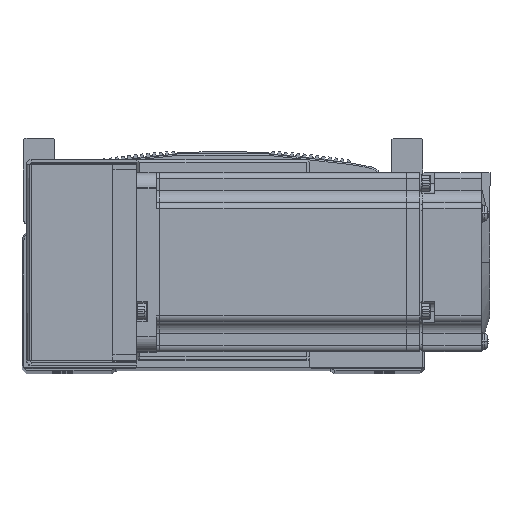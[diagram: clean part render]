
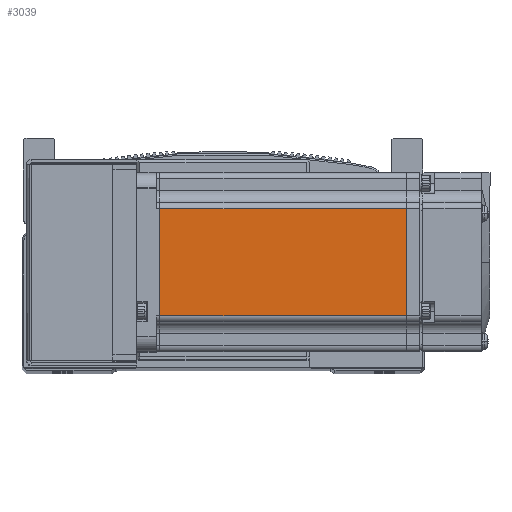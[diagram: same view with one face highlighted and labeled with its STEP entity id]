
A CAD part, top view. The second image highlights one B-rep face of the part: STEP entity #3039.
In plain terms, the highlighted planar face has unit normal (0, 0, 1) as drawn and (0, 0, -1) by its records, which use the part's own axes.
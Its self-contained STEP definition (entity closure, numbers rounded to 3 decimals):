
#3039 = ADVANCED_FACE ( 'NONE', ( #39071 ), #41800, .T. ) ;
#6420 = EDGE_CURVE ( 'NONE', #58538, #58545, #23903, .T. ) ;
#6489 = EDGE_CURVE ( 'NONE', #58529, #58544, #23930, .T. ) ;
#6559 = EDGE_CURVE ( 'NONE', #58545, #58529, #23950, .T. ) ;
#6568 = EDGE_CURVE ( 'NONE', #58544, #58538, #23989, .T. ) ;
#23903 = LINE ( 'NONE', #74183, #23905 ) ;
#23905 = VECTOR ( 'NONE', #74196, 1000. ) ;
#23930 = LINE ( 'NONE', #74272, #23943 ) ;
#23943 = VECTOR ( 'NONE', #74275, 1000. ) ;
#23950 = LINE ( 'NONE', #74315, #23954 ) ;
#23954 = VECTOR ( 'NONE', #74314, 1000. ) ;
#23989 = LINE ( 'NONE', #74300, #23997 ) ;
#23997 = VECTOR ( 'NONE', #74318, 1000. ) ;
#25506 = CARTESIAN_POINT ( 'NONE',  ( -90.45, -18., -30. ) ) ;
#25535 = CARTESIAN_POINT ( 'NONE',  ( -7.75, -18., -30. ) ) ;
#25538 = CARTESIAN_POINT ( 'NONE',  ( -7.75, 18., -30. ) ) ;
#25558 = CARTESIAN_POINT ( 'NONE',  ( -90.45, 18., -30. ) ) ;
#39071 = FACE_OUTER_BOUND ( 'NONE', #67887, .T. ) ;
#41800 = PLANE ( 'NONE',  #66070 ) ;
#41813 = DIRECTION ( 'NONE',  ( -1., 0., 0. ) ) ;
#41816 = DIRECTION ( 'NONE',  ( 0., 0., -1. ) ) ;
#41837 = CARTESIAN_POINT ( 'NONE',  ( -6.5, 25., -30. ) ) ;
#50928 = ORIENTED_EDGE ( 'NONE', *, *, #6489, .T. ) ;
#50977 = ORIENTED_EDGE ( 'NONE', *, *, #6568, .T. ) ;
#51000 = ORIENTED_EDGE ( 'NONE', *, *, #6420, .T. ) ;
#51072 = ORIENTED_EDGE ( 'NONE', *, *, #6559, .T. ) ;
#58529 = VERTEX_POINT ( 'NONE', #25506 ) ;
#58538 = VERTEX_POINT ( 'NONE', #25538 ) ;
#58544 = VERTEX_POINT ( 'NONE', #25558 ) ;
#58545 = VERTEX_POINT ( 'NONE', #25535 ) ;
#66070 = AXIS2_PLACEMENT_3D ( 'NONE', #41837, #41816, #41813 ) ;
#67887 = EDGE_LOOP ( 'NONE', ( #51000, #51072, #50928, #50977 ) ) ;
#74183 = CARTESIAN_POINT ( 'NONE',  ( -7.75, 25., -30. ) ) ;
#74196 = DIRECTION ( 'NONE',  ( 0., -1., 0. ) ) ;
#74272 = CARTESIAN_POINT ( 'NONE',  ( -90.45, 25., -30. ) ) ;
#74275 = DIRECTION ( 'NONE',  ( 0., 1., 0. ) ) ;
#74300 = CARTESIAN_POINT ( 'NONE',  ( -6.5, 18., -30. ) ) ;
#74314 = DIRECTION ( 'NONE',  ( -1., 0., 0. ) ) ;
#74315 = CARTESIAN_POINT ( 'NONE',  ( -6.5, -18., -30. ) ) ;
#74318 = DIRECTION ( 'NONE',  ( 1., 0., 0. ) ) ;
